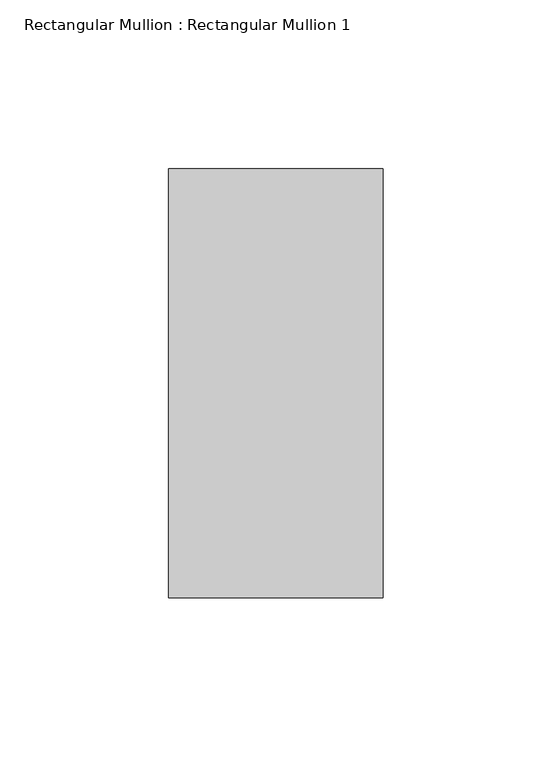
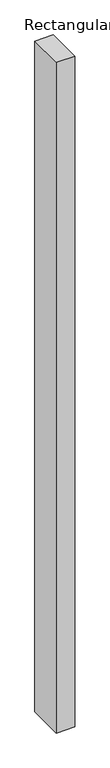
"""IFC4 building model written with IfcOpenShell, lengths in millimetres: member geometry, Rectangular Mullion : Rectangular Mullion 1."""

from ifc_helpers import new_model, si_unit, frame, origin, place, context, project, spatial, polyline, outline, extrude, source, transform, mapped, element, save


def rectangular_mullion_rectangular_mullion_1_2d569b24(model_context):
    return source(origin(), model_context, "Body", "SweptSolid", [
        extrude(outline(polyline([(0.0, 63.5), (0.0, -63.5), (-63.5, -63.5), (-63.5, 63.5), (0.0, 63.5)])), frame((0.0, 0.0, -2436.7403044), z_axis=(0.0, 0.0, 1.0), x_axis=(1.0, 0.0, 0.0)), (0.0, 0.0, 1.0), 2436.7403044),
    ])


if __name__ == "__main__":
    model = new_model("IFC4")
    model_context = context("Model", 3, world=origin())
    ifc_project = project(units=[si_unit("LENGTHUNIT", "METRE", prefix="MILLI")], contexts=[model_context])
    site = spatial("IfcSite", under=ifc_project)
    building = spatial("IfcBuilding", under=site)
    placement = place(None, origin())
    rectangular_mullion_rectangular_mullion_1_shape = rectangular_mullion_rectangular_mullion_1_2d569b24(model_context)
    element("IfcMember", 1, ObjectType="Rectangular Mullion : Rectangular Mullion 1", at=placement, inside=building, context=model_context, shape_type="MappedRepresentation", body=[
        mapped(rectangular_mullion_rectangular_mullion_1_shape, transform((0.0, 0.0, 0.0), x_axis=(1.0, 0.0, 0.0), y_axis=(0.0, 1.0, 0.0), z_axis=(0.0, 0.0, 1.0))),
    ])
    save(model, "model.ifc")
